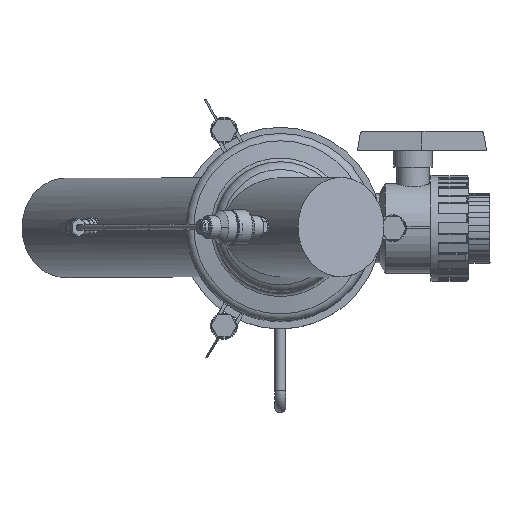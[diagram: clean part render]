
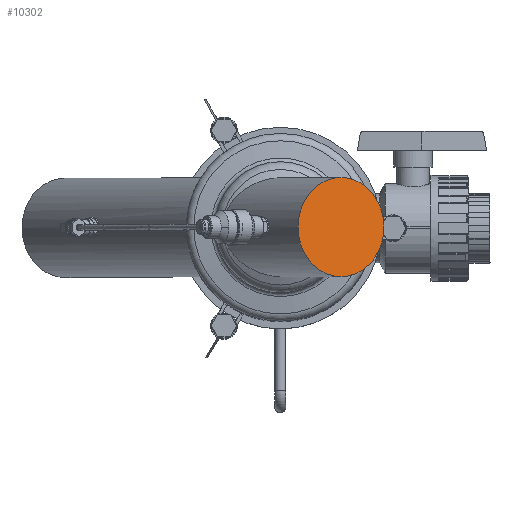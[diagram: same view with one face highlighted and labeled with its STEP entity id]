
A CAD part, top view. The second image highlights one B-rep face of the part: STEP entity #10302.
In plain terms, the highlighted planar face has unit normal (0.5, 0, 0.866).
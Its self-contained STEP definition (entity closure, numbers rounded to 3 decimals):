
#4736 = EDGE_CURVE ( 'NONE', #12884, #12884, #10912, .T. ) ;
#7059 = CARTESIAN_POINT ( 'NONE',  ( 96.951, -34.383, 806.387 ) ) ;
#7555 = ORIENTED_EDGE ( 'NONE', *, *, #4736, .T. ) ;
#8197 = DIRECTION ( 'NONE',  ( 0.5, 0., 0.866 ) ) ;
#9257 = DIRECTION ( 'NONE',  ( 0.5, 0., 0.866 ) ) ;
#9719 = CARTESIAN_POINT ( 'NONE',  ( 135.489, -34.383, 784.137 ) ) ;
#10302 = ADVANCED_FACE ( 'NONE', ( #21235 ), #20084, .T. ) ;
#10912 = CIRCLE ( 'NONE', #25243, 44.5 ) ;
#12884 = VERTEX_POINT ( 'NONE', #9719 ) ;
#13549 = EDGE_LOOP ( 'NONE', ( #7555 ) ) ;
#16689 = AXIS2_PLACEMENT_3D ( 'NONE', #7059, #9257, #24487 ) ;
#20084 = PLANE ( 'NONE',  #16689 ) ;
#21235 = FACE_OUTER_BOUND ( 'NONE', #13549, .T. ) ;
#21245 = CARTESIAN_POINT ( 'NONE',  ( 96.951, -34.383, 806.387 ) ) ;
#23440 = DIRECTION ( 'NONE',  ( 0.866, 0., -0.5 ) ) ;
#24487 = DIRECTION ( 'NONE',  ( 0.866, 0., -0.5 ) ) ;
#25243 = AXIS2_PLACEMENT_3D ( 'NONE', #21245, #8197, #23440 ) ;
